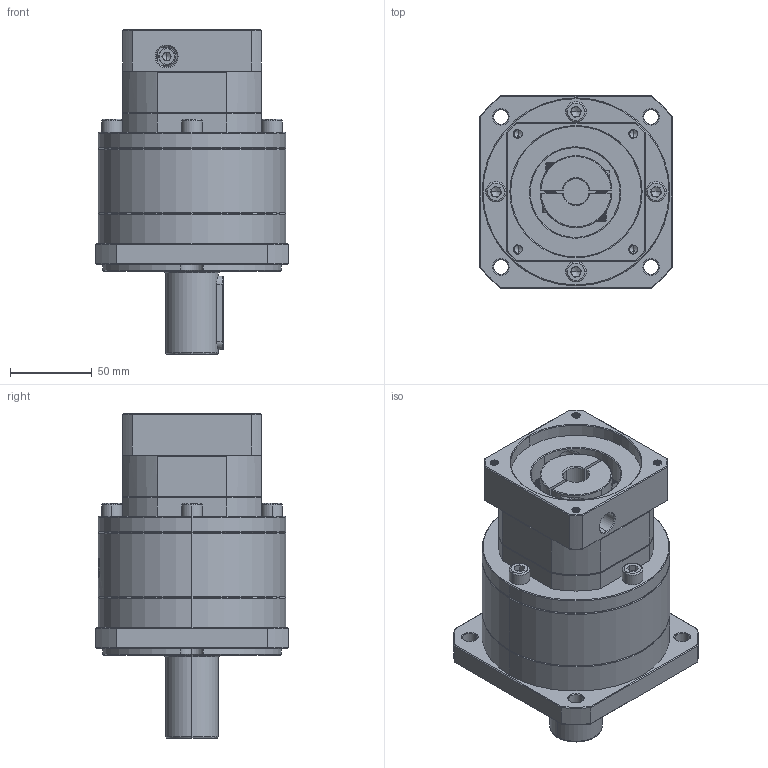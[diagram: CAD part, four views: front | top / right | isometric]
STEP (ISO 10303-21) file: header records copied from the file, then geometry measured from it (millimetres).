
FILE_DESCRIPTION (( 'STEP AP214' ), '1' );
FILE_NAME ('ZF120A-D32-L2-P2-16-80-100-M6.step', '2023-08-27T05:59:46', ( '' ), ( '' ), 'SwSTEP 2.0', 'SolidWorks 2016', '' );
FILE_SCHEMA (( 'AUTOMOTIVE_DESIGN' ));
Length unit declared in the file: millimetre
Products named in the file (1): ZF120A-D32-L2-P2-16-80-100-M6
Bounding box: 118 x 118 x 199 mm (x, y, z)
Volume: 1283424.3 mm3; surface area: 128819.1 mm2
Topology: 5 solids, 6 shells, 2211 faces, 5870 edges, 3758 vertices
Faces by surface type: plane 1064, bspline 419, cylinder 402, cone 311, torus 15
Entity records: 121263 total; most frequent: CARTESIAN_POINT 47512, ORIENTED_EDGE 11680, DIRECTION 8409, EDGE_CURVE 5840, VERTEX_POINT 3758, VECTOR 3097, LINE 3097, AXIS2_PLACEMENT_3D 2656
